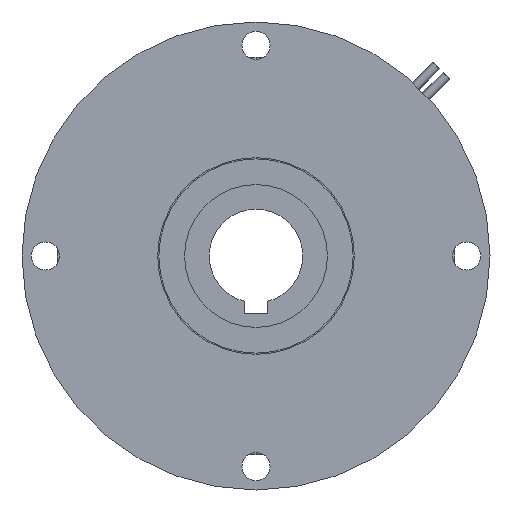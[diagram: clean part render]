
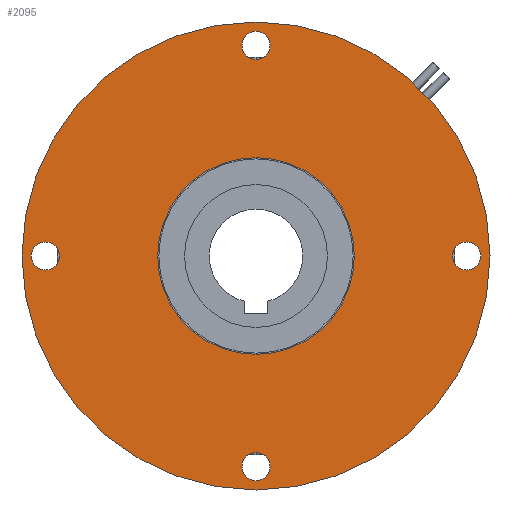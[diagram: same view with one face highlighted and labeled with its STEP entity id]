
A CAD part, front view. The second image highlights one B-rep face of the part: STEP entity #2095.
In plain terms, the highlighted planar face has unit normal (0, -1, 0).
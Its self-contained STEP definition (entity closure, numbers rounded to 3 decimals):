
#22 = ORIENTED_EDGE ( 'NONE', *, *, #3173, .T. ) ;
#83 = CARTESIAN_POINT ( 'NONE',  ( -45., 0., -3. ) ) ;
#240 = CARTESIAN_POINT ( 'NONE',  ( 0., 0., 21. ) ) ;
#605 = AXIS2_PLACEMENT_3D ( 'NONE', #7247, #1525, #959 ) ;
#633 = DIRECTION ( 'NONE',  ( 0., 0., 1. ) ) ;
#634 = EDGE_CURVE ( 'NONE', #3192, #7070, #5899, .T. ) ;
#645 = EDGE_CURVE ( 'NONE', #5050, #6257, #5813, .T. ) ;
#813 = DIRECTION ( 'NONE',  ( 0., 0., 1. ) ) ;
#905 = CARTESIAN_POINT ( 'NONE',  ( 45., 0., 0. ) ) ;
#919 = DIRECTION ( 'NONE',  ( 0., 0., 1. ) ) ;
#951 = CIRCLE ( 'NONE', #2919, 21. ) ;
#959 = DIRECTION ( 'NONE',  ( 0., 0., 1. ) ) ;
#1016 = PLANE ( 'NONE',  #5480 ) ;
#1037 = CARTESIAN_POINT ( 'NONE',  ( 0., 0., 50. ) ) ;
#1142 = EDGE_LOOP ( 'NONE', ( #6037, #1320 ) ) ;
#1165 = CARTESIAN_POINT ( 'NONE',  ( 0., 0., -45. ) ) ;
#1181 = AXIS2_PLACEMENT_3D ( 'NONE', #2786, #5646, #6686 ) ;
#1193 = CARTESIAN_POINT ( 'NONE',  ( 0., 0., 0. ) ) ;
#1209 = CARTESIAN_POINT ( 'NONE',  ( 0., 0., 45. ) ) ;
#1221 = CARTESIAN_POINT ( 'NONE',  ( -45., 0., 0. ) ) ;
#1226 = DIRECTION ( 'NONE',  ( 0., 0., 1. ) ) ;
#1320 = ORIENTED_EDGE ( 'NONE', *, *, #5492, .T. ) ;
#1340 = EDGE_LOOP ( 'NONE', ( #6672, #22 ) ) ;
#1404 = ORIENTED_EDGE ( 'NONE', *, *, #2158, .F. ) ;
#1406 = CARTESIAN_POINT ( 'NONE',  ( 0., 0., -50. ) ) ;
#1481 = VERTEX_POINT ( 'NONE', #2074 ) ;
#1525 = DIRECTION ( 'NONE',  ( 0., 1., 0. ) ) ;
#1528 = FACE_BOUND ( 'NONE', #6608, .T. ) ;
#1685 = EDGE_CURVE ( 'NONE', #1481, #6888, #6122, .T. ) ;
#1758 = EDGE_CURVE ( 'NONE', #4014, #6560, #2320, .T. ) ;
#1775 = CARTESIAN_POINT ( 'NONE',  ( 45., 0., -3. ) ) ;
#1789 = DIRECTION ( 'NONE',  ( 0., 0., 1. ) ) ;
#1795 = AXIS2_PLACEMENT_3D ( 'NONE', #2930, #4709, #1879 ) ;
#1879 = DIRECTION ( 'NONE',  ( 0., 0., 1. ) ) ;
#1976 = CARTESIAN_POINT ( 'NONE',  ( 0., 0., -45. ) ) ;
#2074 = CARTESIAN_POINT ( 'NONE',  ( 0., 0., -42. ) ) ;
#2092 = DIRECTION ( 'NONE',  ( 0., 0., 1. ) ) ;
#2095 = ADVANCED_FACE ( 'NONE', ( #6196, #3216, #1528, #7260, #2143, #4189 ), #1016, .F. ) ;
#2143 = FACE_OUTER_BOUND ( 'NONE', #4416, .T. ) ;
#2158 = EDGE_CURVE ( 'NONE', #6560, #4014, #3839, .T. ) ;
#2265 = CARTESIAN_POINT ( 'NONE',  ( 0., 0., 0. ) ) ;
#2320 = CIRCLE ( 'NONE', #2694, 50. ) ;
#2345 = DIRECTION ( 'NONE',  ( 0., 1., 0. ) ) ;
#2360 = VERTEX_POINT ( 'NONE', #3101 ) ;
#2375 = ORIENTED_EDGE ( 'NONE', *, *, #1685, .T. ) ;
#2526 = CARTESIAN_POINT ( 'NONE',  ( 0., 0., 45. ) ) ;
#2559 = CIRCLE ( 'NONE', #1181, 3. ) ;
#2682 = AXIS2_PLACEMENT_3D ( 'NONE', #1209, #5780, #6307 ) ;
#2694 = AXIS2_PLACEMENT_3D ( 'NONE', #3763, #7147, #919 ) ;
#2756 = ORIENTED_EDGE ( 'NONE', *, *, #3397, .T. ) ;
#2786 = CARTESIAN_POINT ( 'NONE',  ( -45., 0., 0. ) ) ;
#2852 = ORIENTED_EDGE ( 'NONE', *, *, #6602, .T. ) ;
#2919 = AXIS2_PLACEMENT_3D ( 'NONE', #1193, #5207, #633 ) ;
#2930 = CARTESIAN_POINT ( 'NONE',  ( 0., 0., 0. ) ) ;
#2934 = EDGE_CURVE ( 'NONE', #2360, #6641, #2996, .T. ) ;
#2996 = CIRCLE ( 'NONE', #605, 3. ) ;
#3053 = EDGE_CURVE ( 'NONE', #3178, #6289, #5739, .T. ) ;
#3101 = CARTESIAN_POINT ( 'NONE',  ( 45., 0., 3. ) ) ;
#3173 = EDGE_CURVE ( 'NONE', #6257, #5050, #4267, .T. ) ;
#3178 = VERTEX_POINT ( 'NONE', #6836 ) ;
#3192 = VERTEX_POINT ( 'NONE', #83 ) ;
#3203 = AXIS2_PLACEMENT_3D ( 'NONE', #1976, #4243, #813 ) ;
#3216 = FACE_BOUND ( 'NONE', #6105, .T. ) ;
#3397 = EDGE_CURVE ( 'NONE', #6888, #1481, #3449, .T. ) ;
#3449 = CIRCLE ( 'NONE', #3203, 3. ) ;
#3558 = DIRECTION ( 'NONE',  ( 0., 1., 0. ) ) ;
#3704 = DIRECTION ( 'NONE',  ( 0., 0., 1. ) ) ;
#3706 = CARTESIAN_POINT ( 'NONE',  ( 0., 0., -48. ) ) ;
#3763 = CARTESIAN_POINT ( 'NONE',  ( 0., 0., 0. ) ) ;
#3797 = ORIENTED_EDGE ( 'NONE', *, *, #1758, .F. ) ;
#3839 = CIRCLE ( 'NONE', #1795, 50. ) ;
#4014 = VERTEX_POINT ( 'NONE', #1406 ) ;
#4186 = CIRCLE ( 'NONE', #4682, 3. ) ;
#4189 = FACE_BOUND ( 'NONE', #5642, .T. ) ;
#4243 = DIRECTION ( 'NONE',  ( 0., 1., 0. ) ) ;
#4267 = CIRCLE ( 'NONE', #2682, 3. ) ;
#4416 = EDGE_LOOP ( 'NONE', ( #1404, #3797 ) ) ;
#4682 = AXIS2_PLACEMENT_3D ( 'NONE', #905, #4815, #3704 ) ;
#4709 = DIRECTION ( 'NONE',  ( 0., 1., 0. ) ) ;
#4815 = DIRECTION ( 'NONE',  ( 0., 1., 0. ) ) ;
#4874 = AXIS2_PLACEMENT_3D ( 'NONE', #1221, #3558, #1789 ) ;
#4970 = CARTESIAN_POINT ( 'NONE',  ( 21., 0., 0. ) ) ;
#5050 = VERTEX_POINT ( 'NONE', #6124 ) ;
#5163 = DIRECTION ( 'NONE',  ( 0., 0., 1. ) ) ;
#5207 = DIRECTION ( 'NONE',  ( 0., 1., 0. ) ) ;
#5231 = AXIS2_PLACEMENT_3D ( 'NONE', #2526, #6451, #2092 ) ;
#5407 = ORIENTED_EDGE ( 'NONE', *, *, #634, .T. ) ;
#5421 = CARTESIAN_POINT ( 'NONE',  ( 0., 0., 42. ) ) ;
#5480 = AXIS2_PLACEMENT_3D ( 'NONE', #4970, #5763, #1226 ) ;
#5492 = EDGE_CURVE ( 'NONE', #6641, #2360, #4186, .T. ) ;
#5642 = EDGE_LOOP ( 'NONE', ( #2852, #5653 ) ) ;
#5646 = DIRECTION ( 'NONE',  ( 0., 1., 0. ) ) ;
#5653 = ORIENTED_EDGE ( 'NONE', *, *, #3053, .T. ) ;
#5739 = CIRCLE ( 'NONE', #6827, 21. ) ;
#5763 = DIRECTION ( 'NONE',  ( 0., 1., 0. ) ) ;
#5780 = DIRECTION ( 'NONE',  ( 0., 1., 0. ) ) ;
#5813 = CIRCLE ( 'NONE', #5231, 3. ) ;
#5847 = ORIENTED_EDGE ( 'NONE', *, *, #6503, .T. ) ;
#5899 = CIRCLE ( 'NONE', #4874, 3. ) ;
#6037 = ORIENTED_EDGE ( 'NONE', *, *, #2934, .T. ) ;
#6064 = CARTESIAN_POINT ( 'NONE',  ( -45., 0., 3. ) ) ;
#6105 = EDGE_LOOP ( 'NONE', ( #5847, #5407 ) ) ;
#6122 = CIRCLE ( 'NONE', #7129, 3. ) ;
#6124 = CARTESIAN_POINT ( 'NONE',  ( 0., 0., 48. ) ) ;
#6196 = FACE_BOUND ( 'NONE', #1340, .T. ) ;
#6218 = DIRECTION ( 'NONE',  ( 0., 0., 1. ) ) ;
#6257 = VERTEX_POINT ( 'NONE', #5421 ) ;
#6289 = VERTEX_POINT ( 'NONE', #240 ) ;
#6307 = DIRECTION ( 'NONE',  ( 0., 0., 1. ) ) ;
#6451 = DIRECTION ( 'NONE',  ( 0., 1., 0. ) ) ;
#6503 = EDGE_CURVE ( 'NONE', #7070, #3192, #2559, .T. ) ;
#6560 = VERTEX_POINT ( 'NONE', #1037 ) ;
#6602 = EDGE_CURVE ( 'NONE', #6289, #3178, #951, .T. ) ;
#6608 = EDGE_LOOP ( 'NONE', ( #2375, #2756 ) ) ;
#6641 = VERTEX_POINT ( 'NONE', #1775 ) ;
#6672 = ORIENTED_EDGE ( 'NONE', *, *, #645, .T. ) ;
#6686 = DIRECTION ( 'NONE',  ( 0., 0., 1. ) ) ;
#6827 = AXIS2_PLACEMENT_3D ( 'NONE', #2265, #7336, #6218 ) ;
#6836 = CARTESIAN_POINT ( 'NONE',  ( 0., 0., -21. ) ) ;
#6888 = VERTEX_POINT ( 'NONE', #3706 ) ;
#7070 = VERTEX_POINT ( 'NONE', #6064 ) ;
#7129 = AXIS2_PLACEMENT_3D ( 'NONE', #1165, #2345, #5163 ) ;
#7147 = DIRECTION ( 'NONE',  ( 0., 1., 0. ) ) ;
#7247 = CARTESIAN_POINT ( 'NONE',  ( 45., 0., 0. ) ) ;
#7260 = FACE_BOUND ( 'NONE', #1142, .T. ) ;
#7336 = DIRECTION ( 'NONE',  ( 0., 1., 0. ) ) ;
